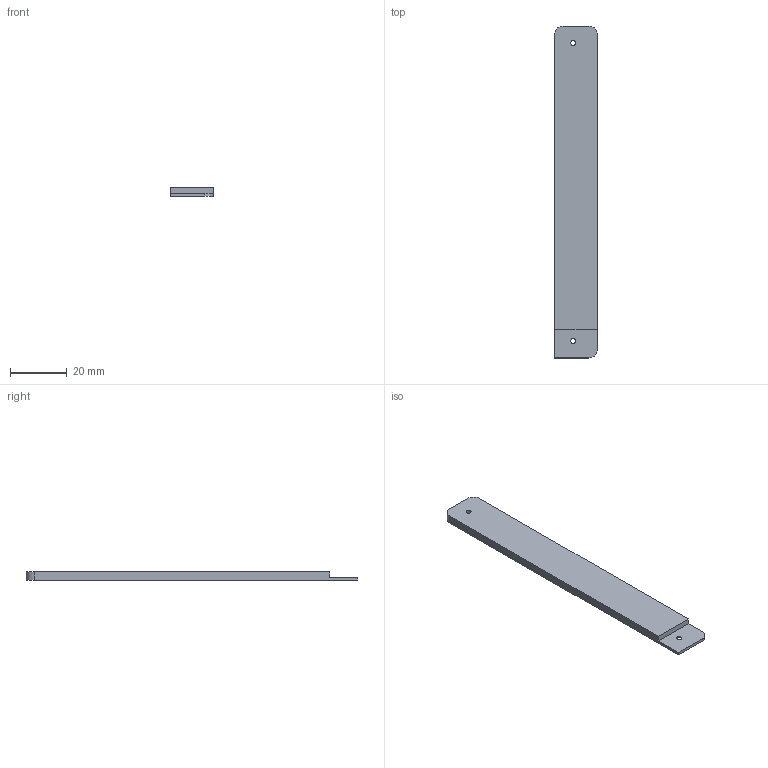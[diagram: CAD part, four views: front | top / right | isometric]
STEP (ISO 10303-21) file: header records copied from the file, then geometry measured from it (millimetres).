
FILE_DESCRIPTION(('FreeCAD Model'),'2;1');
FILE_NAME('Open CASCADE Shape Model','2025-06-18T00:20:00',(''),(''), 'Open CASCADE STEP processor 7.6','FreeCAD','Unknown');
FILE_SCHEMA(('CONFIG_CONTROL_DESIGN','SHAPE_APPEARANCE_LAYER_MIM'));
Length unit declared in the file: millimetre
Products named in the file (1): LeftSingleCCDSupportFrame
Bounding box: 15 x 117 x 3 mm (x, y, z)
Volume: 4939.1 mm3; surface area: 4250.6 mm2
Topology: 1 solids, 1 shells, 15 faces, 37 edges, 24 vertices
Faces by surface type: plane 8, cylinder 5, cone 2
Full cylindrical faces by diameter (mm): 1.7 x2
Entity records: 507 total; most frequent: DIRECTION 81, CARTESIAN_POINT 77, ORIENTED_EDGE 74, EDGE_CURVE 37, AXIS2_PLACEMENT_3D 28, LINE 25, VECTOR 25, VERTEX_POINT 24
